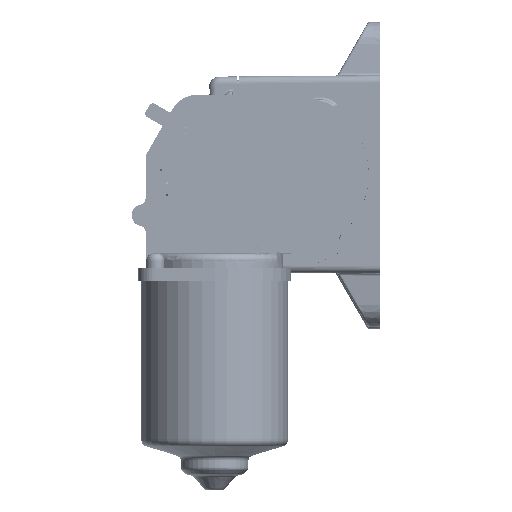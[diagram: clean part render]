
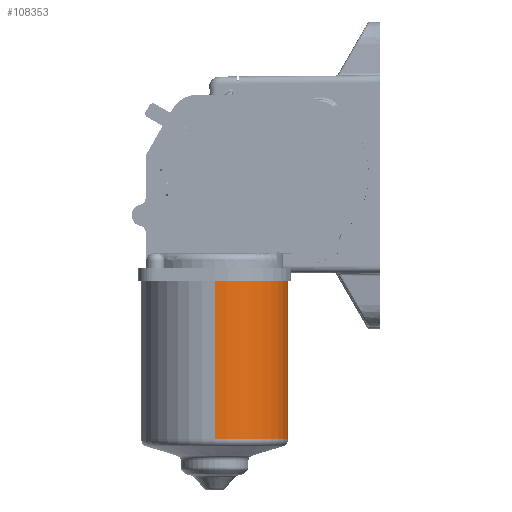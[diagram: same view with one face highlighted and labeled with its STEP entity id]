
A CAD part, top view. The second image highlights one B-rep face of the part: STEP entity #108353.
In plain terms, the highlighted cylindrical face has radius 30.3 mm (diameter 60.6 mm), a partial arc.
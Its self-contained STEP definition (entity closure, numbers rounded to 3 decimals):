
#7093 = CARTESIAN_POINT ( 'NONE',  ( -23.859, 3.635, 8.245 ) ) ;
#17707 = DIRECTION ( 'NONE',  ( 0., 0., 1. ) ) ;
#21193 = CIRCLE ( 'NONE', #79718, 30.3 ) ;
#24624 = CARTESIAN_POINT ( 'NONE',  ( -23.859, 3.635, 68.845 ) ) ;
#28556 = LINE ( 'NONE', #106517, #126201 ) ;
#28684 = CARTESIAN_POINT ( 'NONE',  ( -23.859, -61.947, 68.845 ) ) ;
#33707 = CARTESIAN_POINT ( 'NONE',  ( -23.859, 3.635, 8.245 ) ) ;
#34268 = DIRECTION ( 'NONE',  ( 0., 1., 0. ) ) ;
#40713 = EDGE_CURVE ( 'NONE', #79417, #88177, #21193, .T. ) ;
#41417 = ORIENTED_EDGE ( 'NONE', *, *, #150020, .F. ) ;
#52207 = DIRECTION ( 'NONE',  ( 0., 1., 0. ) ) ;
#52378 = DIRECTION ( 'NONE',  ( 0., 1., 0. ) ) ;
#57709 = ORIENTED_EDGE ( 'NONE', *, *, #116716, .F. ) ;
#68971 = DIRECTION ( 'NONE',  ( 0., 1., 0. ) ) ;
#75247 = CYLINDRICAL_SURFACE ( 'NONE', #137333, 30.3 ) ;
#79302 = FACE_OUTER_BOUND ( 'NONE', #108434, .T. ) ;
#79417 = VERTEX_POINT ( 'NONE', #28684 ) ;
#79718 = AXIS2_PLACEMENT_3D ( 'NONE', #128479, #52207, #141269 ) ;
#81827 = CARTESIAN_POINT ( 'NONE',  ( -23.859, 3.635, 38.545 ) ) ;
#84813 = VERTEX_POINT ( 'NONE', #7093 ) ;
#87262 = VERTEX_POINT ( 'NONE', #24624 ) ;
#88177 = VERTEX_POINT ( 'NONE', #111144 ) ;
#93897 = EDGE_CURVE ( 'NONE', #88177, #84813, #163318, .T. ) ;
#105970 = DIRECTION ( 'NONE',  ( 0., 1., 0. ) ) ;
#106517 = CARTESIAN_POINT ( 'NONE',  ( -23.859, 3.635, 68.845 ) ) ;
#108353 = ADVANCED_FACE ( 'NONE', ( #79302 ), #75247, .T. ) ;
#108434 = EDGE_LOOP ( 'NONE', ( #121593, #125642, #41417, #57709 ) ) ;
#111144 = CARTESIAN_POINT ( 'NONE',  ( -23.859, -61.947, 8.245 ) ) ;
#116716 = EDGE_CURVE ( 'NONE', #79417, #87262, #28556, .T. ) ;
#121593 = ORIENTED_EDGE ( 'NONE', *, *, #40713, .T. ) ;
#125642 = ORIENTED_EDGE ( 'NONE', *, *, #93897, .T. ) ;
#126201 = VECTOR ( 'NONE', #105970, 1000. ) ;
#128479 = CARTESIAN_POINT ( 'NONE',  ( -23.859, -61.947, 38.545 ) ) ;
#128645 = CARTESIAN_POINT ( 'NONE',  ( -23.859, 3.635, 38.545 ) ) ;
#129556 = VECTOR ( 'NONE', #34268, 1000. ) ;
#137333 = AXIS2_PLACEMENT_3D ( 'NONE', #81827, #68971, #17707 ) ;
#141269 = DIRECTION ( 'NONE',  ( 0., 0., -1. ) ) ;
#141437 = DIRECTION ( 'NONE',  ( 0., 0., 1. ) ) ;
#146357 = AXIS2_PLACEMENT_3D ( 'NONE', #128645, #52378, #141437 ) ;
#150020 = EDGE_CURVE ( 'NONE', #87262, #84813, #160166, .T. ) ;
#160166 = CIRCLE ( 'NONE', #146357, 30.3 ) ;
#163318 = LINE ( 'NONE', #33707, #129556 ) ;
